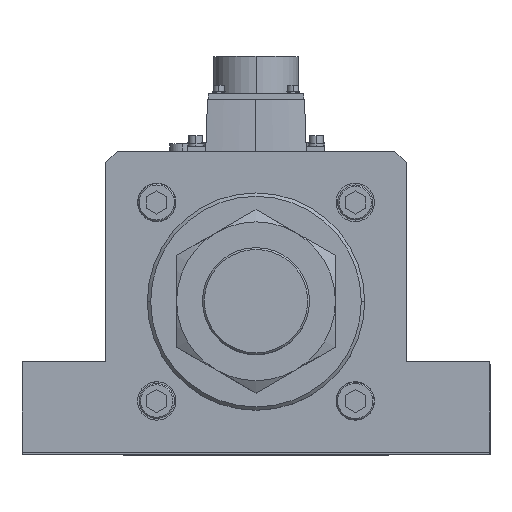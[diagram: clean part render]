
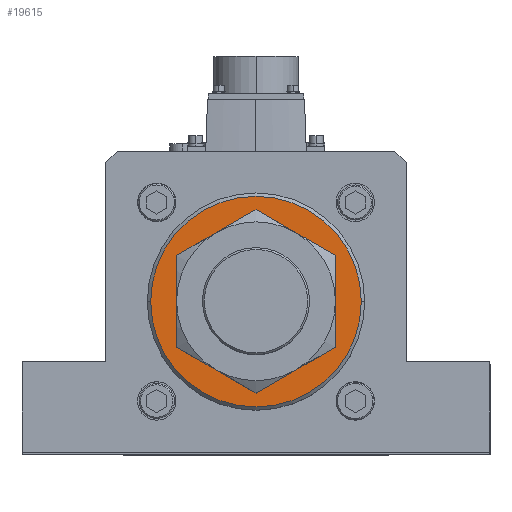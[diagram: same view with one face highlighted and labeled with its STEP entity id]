
A CAD part, top view. The second image highlights one B-rep face of the part: STEP entity #19615.
In plain terms, the highlighted planar face has unit normal (0, 0, 1).
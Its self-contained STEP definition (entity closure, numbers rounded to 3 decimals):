
#3676 = CIRCLE ( 'NONE', #54896, 40.5 ) ;
#4590 = ORIENTED_EDGE ( 'NONE', *, *, #53829, .T. ) ;
#5036 = DIRECTION ( 'NONE',  ( 0., 0., -1. ) ) ;
#9542 = VERTEX_POINT ( 'NONE', #55223 ) ;
#10798 = AXIS2_PLACEMENT_3D ( 'NONE', #35902, #35534, #22987 ) ;
#11324 = DIRECTION ( 'NONE',  ( 0., 0., 1. ) ) ;
#11454 = CARTESIAN_POINT ( 'NONE',  ( -40.5, 0., 762. ) ) ;
#13720 = ORIENTED_EDGE ( 'NONE', *, *, #30833, .T. ) ;
#13775 = CARTESIAN_POINT ( 'NONE',  ( 63., 0., 762. ) ) ;
#17124 = VERTEX_POINT ( 'NONE', #26362 ) ;
#18385 = DIRECTION ( 'NONE',  ( 1., 0., 0. ) ) ;
#19615 = ADVANCED_FACE ( 'NONE', ( #41414, #31231 ), #55738, .T. ) ;
#22987 = DIRECTION ( 'NONE',  ( 1., 0., 0. ) ) ;
#25535 = CARTESIAN_POINT ( 'NONE',  ( 0., 0., 762. ) ) ;
#26362 = CARTESIAN_POINT ( 'NONE',  ( -63., 0., 762. ) ) ;
#26747 = CARTESIAN_POINT ( 'NONE',  ( 0., 0., 762. ) ) ;
#26843 = DIRECTION ( 'NONE',  ( 1., 0., 0. ) ) ;
#29214 = CARTESIAN_POINT ( 'NONE',  ( 0., 0., 762. ) ) ;
#29507 = ORIENTED_EDGE ( 'NONE', *, *, #40226, .T. ) ;
#30833 = EDGE_CURVE ( 'NONE', #48246, #9542, #3676, .T. ) ;
#31014 = CARTESIAN_POINT ( 'NONE',  ( 0., 0., 762. ) ) ;
#31231 = FACE_OUTER_BOUND ( 'NONE', #42759, .T. ) ;
#32222 = CIRCLE ( 'NONE', #39003, 63. ) ;
#33187 = DIRECTION ( 'NONE',  ( 1., 0., 0. ) ) ;
#34055 = DIRECTION ( 'NONE',  ( 1., 0., 0. ) ) ;
#35534 = DIRECTION ( 'NONE',  ( 0., 0., -1. ) ) ;
#35746 = DIRECTION ( 'NONE',  ( 0., 0., 1. ) ) ;
#35902 = CARTESIAN_POINT ( 'NONE',  ( 0., 0., 762. ) ) ;
#36675 = EDGE_CURVE ( 'NONE', #17124, #40546, #47444, .T. ) ;
#37003 = EDGE_LOOP ( 'NONE', ( #4590, #13720 ) ) ;
#38826 = AXIS2_PLACEMENT_3D ( 'NONE', #25535, #42786, #34055 ) ;
#39003 = AXIS2_PLACEMENT_3D ( 'NONE', #29214, #11324, #33187 ) ;
#40226 = EDGE_CURVE ( 'NONE', #40546, #17124, #32222, .T. ) ;
#40546 = VERTEX_POINT ( 'NONE', #13775 ) ;
#40781 = CIRCLE ( 'NONE', #10798, 40.5 ) ;
#41414 = FACE_BOUND ( 'NONE', #37003, .T. ) ;
#42759 = EDGE_LOOP ( 'NONE', ( #50410, #29507 ) ) ;
#42786 = DIRECTION ( 'NONE',  ( 0., 0., 1. ) ) ;
#44352 = AXIS2_PLACEMENT_3D ( 'NONE', #31014, #35746, #26843 ) ;
#47444 = CIRCLE ( 'NONE', #44352, 63. ) ;
#48246 = VERTEX_POINT ( 'NONE', #11454 ) ;
#50410 = ORIENTED_EDGE ( 'NONE', *, *, #36675, .T. ) ;
#53829 = EDGE_CURVE ( 'NONE', #9542, #48246, #40781, .T. ) ;
#54896 = AXIS2_PLACEMENT_3D ( 'NONE', #26747, #5036, #18385 ) ;
#55223 = CARTESIAN_POINT ( 'NONE',  ( 40.5, 0., 762. ) ) ;
#55738 = PLANE ( 'NONE',  #38826 ) ;
